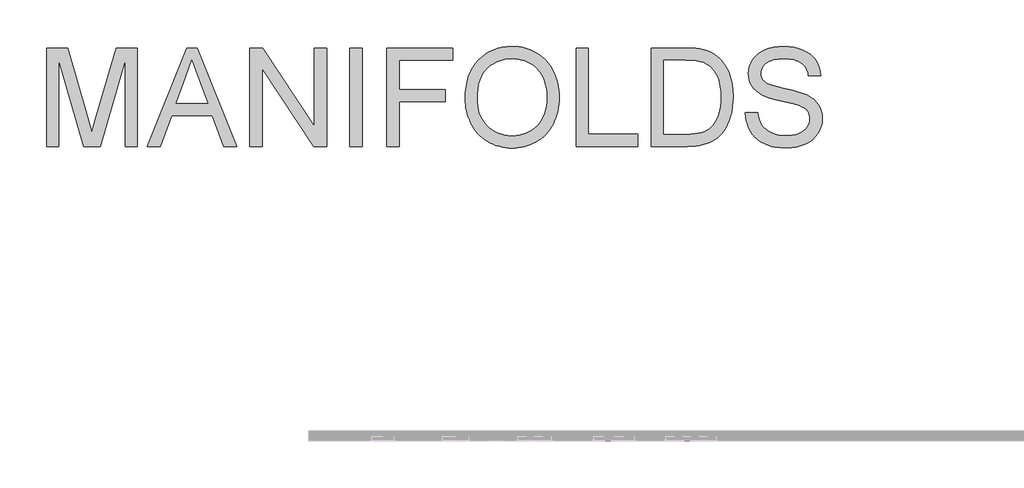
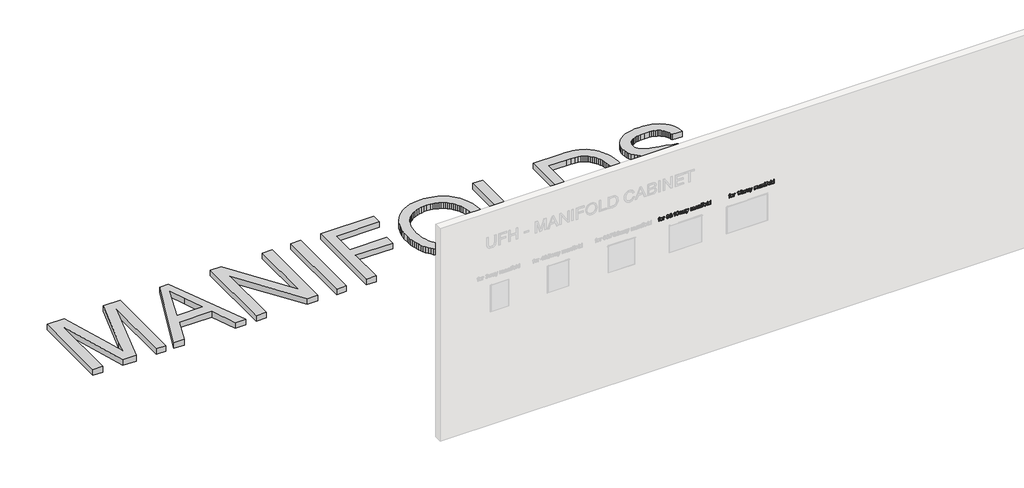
# One storey, part 9 of 26: 3 proxies.
"""IFC4 building model written with IfcOpenShell, lengths in millimetres."""

from ifc_helpers import new_model, si_unit, frame, origin, origin_with_axes, place, context, project, spatial, polyline, outline, extrude, element, save

model = new_model("IFC4")

# Units and contexts
model_context = context("Model", 3, world=origin())
ifc_project = project(units=[si_unit("LENGTHUNIT", "METRE", prefix="MILLI")], contexts=[model_context])

# Site, building, storey
site = spatial("IfcSite", under=ifc_project)
building = spatial("IfcBuilding", under=site)
storey = spatial("IfcBuildingStorey", under=building, Name="Superpipe UFH", Elevation=0.0)

# Proxies
placement = place(None, origin())
element("IfcBuildingElementProxy", 1, Name="2000mm Arial", ObjectType="2000mm Arial", at=placement, inside=storey, context=model_context, shape_type="SweptSolid", body=[
    extrude(outline(polyline([(-5622.4914813, -9208.7527888), (-5622.4914813, -7199.6265858), (-5190.3527643, -7199.6265858), (-4779.3059483, -8615.7270126), (-4696.4098721, -8911.5041367), (-4606.6466652, -8591.2015462), (-4202.4669799, -7199.6265858), (-3770.3282629, -7199.6265858), (-3770.3282629, -9208.7527888), (-4021.4690382, -9208.7527888), (-4021.4690382, -7450.7673612), (-4526.2031356, -9208.7527888), (-4866.6166085, -9208.7527888), (-5371.3507059, -7450.7673612), (-5371.3507059, -9208.7527888), (-5622.4914813, -9208.7527888)])), origin_with_axes(), (0.0, 0.0, 1.0), 150.0),
    extrude(outline(polyline([(-3564.8048549, -9208.7527888), (-2762.8221054, -7199.6265858), (-2548.9600389, -7199.6265858), (-1746.9772894, -9208.7527888), (-2012.3428353, -9208.7527888), (-2242.3917096, -8580.9008504), (-3069.8809441, -8580.9008504), (-3299.439309, -9208.7527888), (-3564.8048549, -9208.7527888)]), holes=[polyline([(-2977.6651906, -8329.760075), (-2334.1169537, -8329.760075), (-2515.1148953, -7835.8171828), (-2655.8910722, -7450.7673612), (-2780.9709505, -7792.652362), (-2977.6651906, -8329.760075)])]), origin_with_axes(), (0.0, 0.0, 1.0), 150.0),
    extrude(outline(polyline([(-1478.6686876, -9208.7527888), (-1478.6686876, -7199.6265858), (-1209.8695764, -7199.6265858), (-160.1796169, -8791.3293516), (-160.1796169, -7199.6265858), (90.9611585, -7199.6265858), (90.9611585, -9208.7527888), (-177.8379526, -9208.7527888), (-1227.5279122, -7616.5595137), (-1227.5279122, -9208.7527888), (-1478.6686876, -9208.7527888)])), origin_with_axes(), (0.0, 0.0, 1.0), 150.0),
    extrude(outline(polyline([(561.8501123, -9208.7527888), (561.8501123, -7199.6265858), (812.9908877, -7199.6265858), (812.9908877, -9208.7527888), (561.8501123, -9208.7527888)])), origin_with_axes(), (0.0, 0.0, 1.0), 150.0),
    extrude(outline(polyline([(1315.2724384, -9208.7527888), (1315.2724384, -7199.6265858), (2665.1541061, -7199.6265858), (2665.1541061, -7450.7673612), (1566.4132138, -7450.7673612), (1566.4132138, -8047.2267027), (2508.1911215, -8047.2267027), (2508.1911215, -8298.3674781), (1566.4132138, -8298.3674781), (1566.4132138, -9208.7527888), (1315.2724384, -9208.7527888)])), origin_with_axes(), (0.0, 0.0, 1.0), 150.0),
    extrude(outline(polyline([(2916.2948815, -8230.677191), (2920.4795392, -8109.4677378), (2933.0335122, -7995.0181162), (2953.9568007, -7887.3283263), (2983.2494046, -7786.3983681), (3020.9113238, -7692.2282416), (3066.9425585, -7604.8179467), (3121.3431085, -7524.1674834), (3184.1129739, -7450.2768519), (3253.4970511, -7384.1730558), (3327.7402362, -7326.8830993), (3406.8425294, -7278.4069822), (3490.8039306, -7238.7447046), (3579.6244398, -7207.8962665), (3673.304057, -7185.8616678), (3771.8427823, -7172.6409086), (3875.2406156, -7168.2339889), (3943.6743309, -7170.3033251), (4010.4065919, -7176.5113338), (4075.4373988, -7186.8580149), (4138.7667514, -7201.3433685), (4200.3946498, -7219.9673945), (4260.321094, -7242.7300929), (4318.5460839, -7269.6314638), (4375.0696197, -7300.6715072), (4429.0869593, -7335.4133631), (4479.793361, -7373.4201717), (4527.1888247, -7414.691933), (4571.2733504, -7459.2286471), (4612.0469382, -7507.0303138), (4649.5095881, -7558.0969333), (4683.6613, -7612.4285054), (4714.5020739, -7670.0250303), (4741.8632973, -7730.2503786), (4765.5763575, -7792.468421), (4785.6412547, -7856.6791576), (4802.0579887, -7922.8825883), (4814.8265597, -7991.0787132), (4823.9469674, -8061.2675322), (4829.4192121, -8133.4490453), (4831.2432937, -8207.6232526), (4829.3234095, -8282.7708143), (4823.563757, -8355.9103535), (4813.9643362, -8427.0418701), (4800.5251471, -8496.1653641), (4783.2461896, -8563.2808356), (4762.1274638, -8628.3882846), (4737.1689697, -8691.487711), (4708.3707073, -8752.5791148), (4676.0507412, -8810.8424258), (4640.527136, -8865.4575736), (4601.7998918, -8916.4245584), (4559.8690086, -8963.74338), (4514.7344863, -9007.4140385), (4466.396325, -9047.4365339), (4414.8545246, -9083.8108662), (4360.1090852, -9116.5370353), (4303.2061712, -9145.5077425), (4245.191947, -9170.6156886), (4186.0664125, -9191.8608739), (4125.8295679, -9209.2432981), (4064.4814131, -9222.7629615), (4002.0219481, -9232.4198638), (3938.451173, -9238.2140052), (3873.7690876, -9240.1453857), (3804.0707779, -9238.0109037), (3736.242535, -9231.6074578), (3670.284359, -9220.9350478), (3606.1962497, -9205.9936738), (3543.9782073, -9186.7833359), (3483.6302317, -9163.304034), (3425.1523229, -9135.5557681), (3368.5444809, -9103.5385382), (3314.5577981, -9067.830992), (3263.9433669, -9029.0117773), (3216.7011874, -8987.0808941), (3172.8312594, -8942.0383423), (3132.3335831, -8893.884122), (3095.2081584, -8842.6182331), (3061.4549854, -8788.2406757), (3031.074064, -8730.7514497), (3004.1726931, -8671.2733617), (2980.8581716, -8610.9292182), (2961.1304996, -8549.7190192), (2944.9896771, -8487.6427646), (2932.435704, -8424.7004545), (2923.4685804, -8360.8920888), (2918.0883062, -8296.2176677), (2916.2948815, -8230.677191)]), holes=[polyline([(3167.4356568, -8233.1297376), (3170.5741501, -8318.7159509), (3179.9896299, -8399.6269972), (3195.6820963, -8475.8628765), (3217.6515492, -8547.4235888), (3245.8979886, -8614.3091341), (3280.4214146, -8676.5195123), (3321.2218271, -8734.0547235), (3368.2992262, -8786.9147677), (3420.113106, -8834.2795745), (3475.1229605, -8875.3290738), (3533.32879, -8910.0632656), (3594.7305942, -8938.4821497), (3659.3283733, -8960.5857262), (3727.1221272, -8976.3739952), (3798.111856, -8985.8469566), (3872.2975596, -8989.0046104), (3947.839828, -8985.8162997), (4019.9561954, -8976.2513679), (4088.6466617, -8960.3098147), (4153.9112269, -8937.9916404), (4215.749891, -8909.2968447), (4274.1626541, -8874.2254279), (4329.149516, -8832.7773897), (4380.7104769, -8784.9527304), (4427.4429866, -8731.2649517), (4467.944495, -8672.2275557), (4502.2150021, -8607.8405423), (4530.254508, -8538.1039116), (4552.0630125, -8463.0176635), (4567.6405157, -8382.5817981), (4576.9870177, -8296.7963154), (4580.1025183, -8205.6612153), (4574.7682294, -8090.7287486), (4558.7653626, -7983.3378629), (4532.0939179, -7883.488558), (4514.7574789, -7836.3919984), (4494.7538954, -7791.1808341), (4472.1866343, -7748.1578011), (4447.1591623, -7707.6256359), (4419.6714795, -7669.5843383), (4389.7235858, -7634.0339084), (4357.3154813, -7600.9743462), (4322.4471659, -7570.4056517), (4285.1186397, -7542.3278248), (4245.3299027, -7516.7408657), (4203.6787631, -7493.9206856), (4160.7630291, -7474.1431963), (4116.5827007, -7457.4083976), (4071.137778, -7443.7162896), (4024.4282609, -7433.0668723), (3976.4541495, -7425.4601456), (3876.7121435, -7419.3747643), (3805.3813575, -7422.3063239), (3736.5797602, -7431.1010029), (3670.3073516, -7445.7588011), (3606.5641317, -7466.2797186), (3545.3501006, -7492.6637555), (3486.6652581, -7524.9109116), (3430.5096044, -7563.0211871), (3376.8831394, -7606.9945818), (3327.7938857, -7657.8197787), (3285.2498658, -7716.4854606), (3249.2510797, -7782.9916276), (3219.7975275, -7857.3382795), (3196.8892091, -7939.5254165), (3180.5261245, -8029.5530385), (3170.7082737, -8127.4211455), (3167.4356568, -8233.1297376)])]), origin_with_axes(), (0.0, 0.0, 1.0), 150.0),
    extrude(outline(polyline([(5176.5618598, -9208.7527888), (5176.5618598, -7199.6265858), (5427.7026352, -7199.6265858), (5427.7026352, -8957.6120134), (6432.2657367, -8957.6120134), (6432.2657367, -9208.7527888), (5176.5618598, -9208.7527888)])), origin_with_axes(), (0.0, 0.0, 1.0), 150.0),
    extrude(outline(polyline([(6714.799109, -9208.7527888), (6714.799109, -7199.6265858), (7407.8887879, -7199.6265858), (7518.4066706, -7201.435339), (7615.0063512, -7206.8615984), (7697.6878296, -7215.9053641), (7766.4511059, -7228.5666361), (7849.6537504, -7252.448309), (7926.6024011, -7284.362072), (7997.2970578, -7324.3079253), (8061.7377207, -7372.2858689), (8100.2197102, -7407.0507174), (8136.2031679, -7444.1454853), (8169.6880936, -7483.5701724), (8200.6744875, -7525.3247789), (8229.1623495, -7569.4093046), (8255.1516796, -7615.8237497), (8278.6424779, -7664.568114), (8299.6347442, -7715.6423977), (8334.1849949, -7823.861018), (8358.8637454, -7939.5599054), (8373.6709957, -8062.7390602), (8378.6067458, -8193.3984821), (8375.2651511, -8304.4528594), (8365.2403667, -8409.038645), (8348.5323927, -8507.1558388), (8325.1412292, -8598.8044408), (8296.5077473, -8683.4019713), (8264.072818, -8760.3659503), (8227.8364415, -8829.696378), (8187.7986177, -8891.3932543), (8144.8790516, -8946.1923432), (8099.9974482, -8994.8294086), (8053.1538074, -9037.3044506), (8004.3481294, -9073.6174692), (7952.0015872, -9104.8414536), (7894.5353539, -9132.0493928), (7831.9494294, -9155.2412869), (7764.2438139, -9174.4171359), (7691.3571936, -9189.4389841), (7613.2282549, -9200.1688756), (7529.8569977, -9206.6068105), (7441.2434221, -9208.7527888), (6714.799109, -9208.7527888)]), holes=[polyline([(6965.9398844, -8957.6120134), (7410.3413345, -8957.6120134), (7507.7994064, -8955.3434078), (7594.1597048, -8948.5375909), (7669.4222296, -8937.1945627), (7733.586981, -8921.3143232), (7789.1984759, -8901.2954113), (7838.8012316, -8877.5363658), (7882.395248, -8850.0371867), (7919.9805252, -8818.7978739), (7966.3183282, -8768.4440258), (8007.2298717, -8710.0887443), (8042.7151558, -8643.7320295), (8072.7741805, -8569.3738812), (8096.7018386, -8486.8610154), (8113.793023, -8396.0401478), (8124.0477336, -8296.9112785), (8127.4659705, -8189.4744075), (8125.791341, -8114.33451), (8120.7674525, -8043.6705101), (8112.394305, -7977.4824078), (8100.6718985, -7915.7702031), (8085.600233, -7858.533896), (8067.1793085, -7805.7734865), (8045.409125, -7757.4889747), (8020.2896825, -7713.6803604), (7992.7713429, -7673.8264776), (7963.8044679, -7637.4061601), (7933.3890575, -7604.4194078), (7901.5251118, -7574.8662209), (7868.2126307, -7548.7465992), (7833.4516142, -7526.0605429), (7797.2420624, -7506.8080518), (7759.5839753, -7490.989126), (7695.7564491, -7473.3921039), (7615.1289785, -7460.8228024), (7517.7015635, -7453.2812215), (7403.474204, -7450.7673612), (6965.9398844, -7450.7673612), (6965.9398844, -8957.6120134)])]), origin_with_axes(), (0.0, 0.0, 1.0), 150.0),
    extrude(outline(polyline([(8629.7475212, -8518.1156565), (8880.8882966, -8518.1156565), (8892.3846089, -8591.2168746), (8909.7057195, -8657.481619), (8932.8516284, -8716.9098897), (8961.8223355, -8769.5016866), (8998.0893689, -8816.3146704), (9043.1242565, -8858.4065021), (9096.9269983, -8895.7771814), (9159.4975943, -8928.4267085), (9228.536782, -8954.9295405), (9301.7452991, -8973.8601349), (9379.1231454, -8985.2184915), (9460.670321, -8989.0046104), (9532.8058489, -8986.1381965), (9600.5881065, -8977.5389548), (9664.0170938, -8963.2068854), (9723.0928109, -8943.1419883), (9776.3590581, -8918.0646989), (9822.3596359, -8888.695453), (9861.0945443, -8855.0342504), (9892.5637833, -8817.0810913), (9916.9206371, -8776.4761161), (9934.3183898, -8734.8594653), (9944.7570414, -8692.2311392), (9948.2365919, -8648.5911375), (9945.6307611, -8605.1350768), (9937.8132687, -8564.5301016), (9924.7841147, -8526.7762118), (9906.5432991, -8491.8734075), (9880.2397365, -8459.6377477), (9843.0223413, -8429.8852913), (9794.8911136, -8402.6160385), (9735.8460534, -8377.829989), (9603.2245941, -8338.4053019), (9370.1713502, -8281.9354156), (9239.3433156, -8249.8223831), (9130.1283483, -8218.4757715), (9042.5264482, -8187.8955806), (8976.5376153, -8158.0818106), (8909.4757933, -8118.0746436), (8851.5190506, -8073.591579), (8802.6673874, -8024.6326168), (8762.9208035, -7971.197757), (8732.1260148, -7913.8388226), (8710.1297372, -7853.1076366), (8696.9319706, -7789.0041989), (8692.5327151, -7721.5285096), (8697.9743029, -7646.7411657), (8714.2990664, -7574.4370252), (8741.5070057, -7504.6160882), (8779.5981206, -7437.2783547), (8802.61757, -7405.2266359), (8828.1432155, -7375.1676112), (8886.7130948, -7321.0276442), (8955.3077585, -7274.8584538), (9033.9272066, -7236.66004), (9119.919623, -7206.7236426), (9210.6331916, -7185.3405017), (9306.0679125, -7172.5106171), (9406.2237857, -7168.2339889), (9515.4847383, -7172.7098865), (9618.1238149, -7186.1375793), (9714.1410157, -7208.5170674), (9803.5363405, -7239.8483506), (9884.6543204, -7279.8555176), (9955.8394865, -7328.2626568), (9987.7072643, -7355.616216), (10017.0918387, -7385.0697682), (10043.9932096, -7416.6233135), (10068.411377, -7450.2768519), (10109.3995627, -7521.9831841), (10139.6578568, -7598.2880413), (10159.1862593, -7679.1914234), (10167.9847704, -7764.6933304), (9916.843995, -7764.6933304), (9910.0075213, -7723.3219344), (9900.0440506, -7684.5563691), (9886.9535829, -7648.3966347), (9870.7361183, -7614.842731), (9851.3916567, -7583.8946582), (9828.9201982, -7555.5524161), (9803.3217427, -7529.8160049), (9774.5962902, -7506.6854245), (9742.4909219, -7486.2219885), (9706.7527189, -7468.4870106), (9667.3816812, -7453.4804909), (9624.3778088, -7441.2024293), (9577.7411017, -7431.6528259), (9527.4715599, -7424.8316805), (9416.0339722, -7419.3747643), (9301.0401919, -7424.7703669), (9249.8202883, -7431.5148701), (9202.7850424, -7440.9571746), (9159.9344541, -7453.0972805), (9121.2685236, -7467.9351876), (9086.7872508, -7485.4708961), (9056.4906356, -7505.7044058), (9030.0491172, -7527.8463034), (9007.1331346, -7551.1071754), (8987.7426878, -7575.4870218), (8971.8777767, -7600.9858425), (8959.5384015, -7627.6036377), (8950.724562, -7655.3404073), (8945.4362583, -7684.1961513), (8943.6734904, -7714.1708697), (8948.6705542, -7764.7853009), (8963.6617455, -7810.6785798), (8988.6470643, -7851.8507064), (9023.6265107, -7888.3016808), (9047.2016152, -7905.5154925), (9078.6861827, -7922.8212747), (9165.3837062, -7957.7087505), (9283.7190813, -7992.9641084), (9433.692308, -8028.5873483), (9585.811513, -8063.32154), (9710.584823, -8095.9097534), (9808.0122381, -8126.3519885), (9878.0937582, -8154.6482453), (9955.0883941, -8197.5371546), (10021.261168, -8245.7603528), (10076.6120798, -8299.3178399), (10121.1411297, -8358.209616), (10155.3694836, -8422.1291126), (10179.8183079, -8490.7697615), (10194.4876025, -8564.1315628), (10199.3773673, -8642.2145162), (10193.7518385, -8720.7726506), (10176.8752519, -8797.0315225), (10148.7476077, -8870.991132), (10109.3689058, -8942.651479), (10059.428925, -9009.2381201), (9999.6174439, -9067.976612), (9929.9344627, -9118.8669546), (9850.3799812, -9161.9091481), (9763.2685904, -9196.1375021), (9670.9148812, -9220.5863263), (9573.3188536, -9235.2556209), (9470.4805075, -9240.1453857), (9342.0130491, -9234.8724105), (9224.4287664, -9219.0534847), (9169.717816, -9207.1892903), (9117.7276594, -9192.6886083), (9068.4582968, -9175.5514387), (9021.9097281, -9155.7777815), (8977.9363333, -9133.3523082), (8936.3924926, -9108.2596905), (8897.2782059, -9080.4999282), (8860.5934732, -9050.0730215), (8826.3382945, -9016.9789704), (8794.5126698, -8981.2177748), (8765.1165991, -8942.7894347), (8738.1500825, -8901.6939502), (8713.9235202, -8858.5751146), (8692.7473129, -8814.0767216), (8674.6214604, -8768.1987712), (8659.5459628, -8720.9412632), (8647.5208201, -8672.3041978), (8638.5460323, -8622.2875748), (8629.7475212, -8518.1156565)])), origin_with_axes(), (0.0, 0.0, 1.0), 150.0),
])
element("IfcBuildingElementProxy", 2, Name="600mm Arial 2", ObjectType="600mm Arial 2", at=placement, inside=storey, context=model_context, shape_type="SweptSolid", body=[
    extrude(outline(polyline([(3970.2370156, 5266.2378523), (3970.2370156, 5278.794891), (4031.4525796, 5278.794891), (4031.4525796, 5292.9215597), (4044.0096184, 5292.9215597), (4044.0096184, 5278.794891), (4049.8466793, 5278.794891), (4057.6212522, 5281.1125476), (4059.7059168, 5289.0220105), (4059.1173056, 5296.2570231), (4070.8895295, 5298.0964331), (4072.2629556, 5286.6430403), (4069.393476, 5273.9878996), (4061.9132088, 5267.5622275), (4051.4408347, 5266.2378523), (4044.0096184, 5266.2378523), (4044.0096184, 5255.2504434), (4031.4525796, 5255.2504434), (4031.4525796, 5266.2378523), (3970.2370156, 5266.2378523)])), frame((0.0, -15228.3023992, 0.0), z_axis=(0.0, 1.0, 0.0), x_axis=(0.0, 0.0, 1.0)), (0.0, 0.0, 1.0), 10.0),
    extrude(outline(polyline([(4007.123317, 5300.7697089), (3990.666729, 5303.0475116), (3978.5756741, 5309.8809196), (3971.1444578, 5320.4054104), (3968.6673857, 5333.7564611), (3973.1678088, 5350.764872), (3985.8106867, 5362.622935), (4008.1533866, 5366.6941624), (4023.791437, 5364.3918343), (4035.6341716, 5357.4848498), (4043.092979, 5346.9480963), (4045.5792482, 5333.7564611), (4043.5375031, 5321.7021944), (4037.4122679, 5311.6344905), (4024.9104114, 5303.4859043), (4007.123317, 5300.7697089)]), holes=[polyline([(4007.1478424, 5313.3267477), (4018.506199, 5314.7798815), (4026.5842745, 5319.1392832), (4031.4127257, 5325.6998454), (4033.0222094, 5333.7564611), (4031.4065943, 5341.7303034), (4026.559749, 5348.2877999), (4018.5736441, 5352.6747927), (4007.5402499, 5354.1371237), (3995.9274416, 5352.6839898), (3987.7236731, 5348.3245881), (3982.8492367, 5341.7762886), (3981.2244245, 5333.7564611), (3982.8400396, 5325.6998454), (3987.6868849, 5319.1392832), (3995.7833545, 5314.7798815), (4007.1478424, 5313.3267477)])]), frame((0.0, -15228.3023992, 0.0), z_axis=(0.0, 1.0, 0.0), x_axis=(0.0, 0.0, 1.0)), (0.0, 0.0, 1.0), 10.0),
    extrude(outline(polyline([(3970.2370156, 5380.820831), (3970.2370156, 5393.3778698), (4009.0117779, 5393.3778698), (4023.6780067, 5395.4134835), (4030.5451373, 5399.9384321), (4033.0222094, 5407.0385546), (4030.4470355, 5415.8677224), (4041.7042245, 5420.0615772), (4045.5792482, 5407.4554875), (4043.151227, 5399.6073383), (4033.0957858, 5391.80824), (4044.0096184, 5391.80824), (4044.0096184, 5380.820831), (3970.2370156, 5380.820831)])), frame((0.0, -15228.3023992, 0.0), z_axis=(0.0, 1.0, 0.0), x_axis=(0.0, 0.0, 1.0)), (0.0, 0.0, 1.0), 10.0),
    extrude(outline(polyline([(3995.3510931, 5465.5808427), (3984.0908384, 5468.5913437), (3975.6694064, 5474.5816889), (3970.4178909, 5483.147208), (3968.6673857, 5493.8832309), (3970.1511765, 5504.2850943), (3974.6025486, 5513.270612), (3981.8896778, 5520.5270844), (3991.8807396, 5525.7418117), (4022.378157, 5529.9356664), (4050.4843415, 5525.7295489), (4065.4448759, 5513.4177648), (4070.6933257, 5495.5264371), (4068.3940633, 5483.1257482), (4061.4962759, 5472.9997963), (4050.827698, 5466.2583587), (4037.2160642, 5464.0112129), (4024.0397574, 5466.1541255), (4013.6961419, 5472.5828634), (4007.0006896, 5482.1140727), (4004.7688722, 5493.5643998), (4008.4231667, 5507.3354492), (4017.9390476, 5517.3786277), (4015.486501, 5517.452204), (4000.918374, 5515.6373195), (3990.0045415, 5511.5293039), (3983.6156575, 5504.6376479), (3981.2244245, 5494.4718421), (3984.9400327, 5483.7787388), (3996.920723, 5478.1378815), (3995.3510931, 5465.5808427)]), holes=[polyline([(4037.5103698, 5517.3786277), (4029.0705437, 5515.9592163), (4022.6847254, 5511.7009822), (4017.325911, 5497.2186943), (4018.6656146, 5488.6899634), (4022.6847254, 5482.1355325), (4028.8436831, 5477.9600719), (4036.6029275, 5476.5682517), (4045.2573515, 5478.0397796), (4052.1398104, 5482.4543636), (4056.6371678, 5489.1743414), (4058.136287, 5497.5620508), (4056.7444667, 5505.6493234), (4052.5690061, 5511.9584996), (4046.0207066, 5516.0235956), (4037.5103698, 5517.3786277)])]), frame((0.0, -15228.3023992, 0.0), z_axis=(0.0, 1.0, 0.0), x_axis=(0.0, 0.0, 1.0)), (0.0, 0.0, 1.0), 10.0),
    extrude(outline(polyline([(3982.6469016, 5601.6726555), (3968.6673857, 5614.6956781), (3978.3304195, 5624.1134572), (3993.5362086, 5608.956719), (4014.2111767, 5617.8349378), (4016.9335035, 5605.277899), (4003.0275641, 5599.857771), (4025.6645695, 5581.6844004), (4037.0198604, 5595.8478572), (4050.4843415, 5600.5690095), (4058.8168687, 5598.9748542), (4065.8618089, 5594.1923882), (4070.6626689, 5586.9021934), (4072.2629556, 5577.7848513), (4070.5890925, 5568.2015253), (4065.5675033, 5560.3962956), (4058.2773084, 5555.2091595), (4049.7976284, 5553.4801141), (4040.3798493, 5555.6751433), (4027.6756578, 5564.4429976), (4014.5790587, 5546.82145), (3997.8772162, 5540.9230753), (3987.9505337, 5542.756354), (3979.0171325, 5548.2561898), (3971.2548224, 5558.9247676), (3968.6673857, 5572.7816561), (3972.1622647, 5588.3553273), (3982.6469016, 5601.6726555)]), holes=[polyline([(4033.5862952, 5575.3323046), (4039.5705089, 5570.3781604), (4044.6840687, 5567.1162734), (4049.2825936, 5566.0371529), (4056.6770217, 5569.2132008), (4059.7059168, 5577.1471891), (4056.6524963, 5584.9094992), (4048.7675588, 5588.0119707), (4041.3731307, 5585.657526), (4033.5862952, 5575.3323046)]), polyline([(3991.6967986, 5593.2604205), (3984.142955, 5583.7322768), (3981.2244245, 5572.1930449), (3982.787923, 5564.2590566), (3987.4784184, 5558.3606819), (3999.5449479, 5553.4801141), (4009.1589307, 5557.0485695), (4019.6803557, 5570.8441443), (3991.6967986, 5593.2604205)])]), frame((0.0, -15228.3023992, 0.0), z_axis=(0.0, 1.0, 0.0), x_axis=(0.0, 0.0, 1.0)), (0.0, 0.0, 1.0), 10.0),
    extrude(outline(polyline([(3970.2370156, 5680.6201316), (4070.6933257, 5680.6201316), (4070.6933257, 5672.5267277), (4057.3269466, 5661.3553778), (4045.5792482, 5642.9490153), (4033.7089225, 5642.9490153), (4040.0487555, 5656.1682417), (4048.5223042, 5668.0630929), (3970.2370156, 5668.0630929), (3970.2370156, 5680.6201316)])), frame((0.0, -15228.3023992, 0.0), z_axis=(0.0, 1.0, 0.0), x_axis=(0.0, 0.0, 1.0)), (0.0, 0.0, 1.0), 10.0),
    extrude(outline(polyline([(4019.6558303, 5710.4430987), (3995.2223344, 5712.9446963), (3978.2323176, 5720.449489), (3971.0586187, 5730.3577774), (3968.6673857, 5743.4053255), (3970.0438775, 5753.5558029), (3974.1733529, 5761.7871625), (3990.8751955, 5772.7132578), (4019.6558303, 5776.3675523), (4043.2615916, 5774.0866839), (4058.1240242, 5768.200572), (4067.4559642, 5758.0715544), (4070.6933257, 5743.4053255), (4065.2241467, 5725.0970649), (4048.5590924, 5714.1341814), (4019.6558303, 5710.4430987)]), holes=[polyline([(4019.6803557, 5723.0001375), (4039.1781015, 5724.5207164), (4051.4163092, 5729.0824531), (4056.4562925, 5735.3977607), (4058.136287, 5743.2581727), (4056.229432, 5751.560043), (4050.5088669, 5758.1206053), (4038.9880291, 5762.3880364), (4019.6803557, 5763.8105135), (3999.9588151, 5762.3389855), (3988.5207507, 5757.9244016), (3983.0485061, 5751.3515766), (3981.2244245, 5743.4053255), (3983.0423747, 5735.4590744), (3988.4962253, 5728.8862494), (3999.9281583, 5724.4716655), (4019.6803557, 5723.0001375)])]), frame((0.0, -15228.3023992, 0.0), z_axis=(0.0, 1.0, 0.0), x_axis=(0.0, 0.0, 1.0)), (0.0, 0.0, 1.0), 10.0),
    extrude(outline(polyline([(3970.2370156, 5802.7324286), (3970.2370156, 5818.0853705), (4026.9889447, 5830.5197819), (4013.4999382, 5833.3156851), (3970.2370156, 5842.9541934), (3970.2370156, 5858.135457), (4044.0096184, 5880.747937), (4044.0096184, 5867.651338), (4001.2617305, 5854.8980955), (3987.1105364, 5850.9249699), (4000.5259665, 5848.1535922), (4044.0096184, 5838.0736256), (4044.0096184, 5823.1130911), (4000.4033392, 5812.9840735), (3985.5899575, 5809.8693393), (4000.9674249, 5806.067892), (4044.0096184, 5793.339175), (4044.0096184, 5780.2916269), (3970.2370156, 5802.7324286)])), frame((0.0, -15228.3023992, 0.0), z_axis=(0.0, 1.0, 0.0), x_axis=(0.0, 0.0, 1.0)), (0.0, 0.0, 1.0), 10.0),
    extrude(outline(polyline([(3979.6547947, 5936.4697966), (3970.2370156, 5939.6090562), (3970.2370156, 5952.166095), (3980.7952288, 5949.6644974), (4002.6106312, 5949.0268353), (4018.2333532, 5949.0268353), (4029.2207621, 5948.4136987), (4037.7433617, 5944.5632005), (4043.3474308, 5935.9670245), (4045.5792482, 5920.7489726), (4043.0531252, 5904.1820201), (4035.8671635, 5893.2436621), (4023.6044304, 5887.8112713), (4022.0348005, 5900.3683101), (4030.606451, 5906.4261003), (4033.0222094, 5919.1302919), (4029.3924404, 5933.0117058), (4020.1218141, 5936.4697966), (4017.325911, 5936.3962202), (4013.0094289, 5914.617606), (4011.120968, 5903.7528245), (4007.0006896, 5894.9604448), (3999.7902025, 5888.6451372), (3989.8573887, 5886.2416415), (3981.4144969, 5887.8327311), (3974.6270741, 5892.606), (3970.1573078, 5900.3468503), (3968.6673857, 5910.8406842), (3971.1444578, 5924.2929025), (3979.6547947, 5936.4697966)]), holes=[polyline([(4004.7688722, 5936.4697966), (4001.2126796, 5936.3962202), (3991.5005949, 5934.4096574), (3984.2287941, 5926.2181516), (3981.2244245, 5913.5139601), (3983.9467513, 5902.5388139), (3990.7403054, 5898.7986803), (3995.5718223, 5900.5154629), (3998.8827603, 5905.4082934), (4000.918374, 5916.2117614), (4004.7688722, 5936.4697966)])]), frame((0.0, -15228.3023992, 0.0), z_axis=(0.0, 1.0, 0.0), x_axis=(0.0, 0.0, 1.0)), (0.0, 0.0, 1.0), 10.0),
    extrude(outline(polyline([(3941.9836784, 5966.2927636), (3940.4140485, 5973.9692346), (3943.2344771, 5983.7548957), (3952.0881705, 5991.0389592), (3968.471182, 5997.709886), (4044.0096184, 6023.3880493), (4044.0096184, 6010.2423993), (4001.1391032, 5995.6987978), (3986.669078, 5990.769179), (4003.0520896, 5985.8395603), (4044.0096184, 5971.6883662), (4044.0096184, 5958.4446144), (3970.5067957, 5985.1283218), (3967.4656379, 5984.1473031), (3958.2195371, 5980.7137378), (3954.3567761, 5977.0594434), (3952.9710873, 5971.099755), (3954.0747333, 5964.7231338), (3941.9836784, 5966.2927636)])), frame((0.0, -15228.3023992, 0.0), z_axis=(0.0, 1.0, 0.0), x_axis=(0.0, 0.0, 1.0)), (0.0, 0.0, 1.0), 10.0),
    extrude(outline(polyline([(3970.2370156, 6073.0275932), (3970.2370156, 6085.5846319), (4007.442148, 6085.5846319), (4022.427208, 6087.4976183), (4030.3244081, 6093.6780358), (4033.0222094, 6102.9731876), (4028.9755075, 6112.5013312), (4016.8108762, 6115.407599), (3970.2370156, 6115.407599), (3970.2370156, 6127.9646378), (4011.8812574, 6127.9646378), (4021.4523207, 6129.1939768), (4027.9944888, 6132.8819938), (4033.0222094, 6145.2305661), (4031.0601721, 6152.404265), (4025.8975615, 6156.6226452), (4015.4129246, 6157.7876049), (3970.2370156, 6157.7876049), (3970.2370156, 6170.3446436), (4020.8085272, 6170.3446436), (4031.7990018, 6168.9068382), (4039.5091953, 6164.5934218), (4044.061735, 6157.6128609), (4045.5792482, 6148.173622), (4041.9310851, 6135.8005243), (4030.9865957, 6126.0026005), (4041.7410127, 6119.086419), (4045.5792482, 6106.5048547), (4041.8145891, 6094.2175961), (4031.8695125, 6085.5846319), (4044.0096184, 6085.5846319), (4044.0096184, 6073.0275932), (3970.2370156, 6073.0275932)])), frame((0.0, -15228.3023992, 0.0), z_axis=(0.0, 1.0, 0.0), x_axis=(0.0, 0.0, 1.0)), (0.0, 0.0, 1.0), 10.0),
    extrude(outline(polyline([(3979.6547947, 6236.2690972), (3970.2370156, 6239.4083569), (3970.2370156, 6251.9653956), (3980.7952288, 6249.4637981), (4002.6106312, 6248.8261359), (4018.2333532, 6248.8261359), (4029.2207621, 6248.2129993), (4037.7433617, 6244.3625011), (4043.3474308, 6235.7663251), (4045.5792482, 6220.5482732), (4043.0531252, 6203.9813207), (4035.8671635, 6193.0429627), (4023.6044304, 6187.6105719), (4022.0348005, 6200.1676107), (4030.606451, 6206.2254009), (4033.0222094, 6218.9295925), (4029.3924404, 6232.8110064), (4020.1218141, 6236.2690972), (4017.325911, 6236.1955208), (4013.0094289, 6214.4169066), (4011.120968, 6203.5521251), (4007.0006896, 6194.7597454), (3999.7902025, 6188.4444378), (3989.8573887, 6186.0409421), (3981.4144969, 6187.6320317), (3974.6270741, 6192.4053006), (3970.1573078, 6200.1461509), (3968.6673857, 6210.6399848), (3971.1444578, 6224.0922031), (3979.6547947, 6236.2690972)]), holes=[polyline([(4004.7688722, 6236.2690972), (4001.2126796, 6236.1955208), (3991.5005949, 6234.208958), (3984.2287941, 6226.0174522), (3981.2244245, 6213.3132607), (3983.9467513, 6202.3381145), (3990.7403054, 6198.5979809), (3995.5718223, 6200.3147635), (3998.8827603, 6205.207594), (4000.918374, 6216.011062), (4004.7688722, 6236.2690972)])]), frame((0.0, -15228.3023992, 0.0), z_axis=(0.0, 1.0, 0.0), x_axis=(0.0, 0.0, 1.0)), (0.0, 0.0, 1.0), 10.0),
    extrude(outline(polyline([(3970.2370156, 6266.0920642), (3970.2370156, 6278.649103), (4009.3796599, 6278.649103), (4020.9495486, 6280.0807771), (4028.0925907, 6284.3757994), (4033.0222094, 6297.9996959), (4030.8271802, 6306.6203974), (4024.953331, 6311.7339571), (4013.8432947, 6313.1809596), (3970.2370156, 6313.1809596), (3970.2370156, 6325.7379984), (4015.5355519, 6325.7379984), (4027.6756578, 6325.0758108), (4036.9094958, 6321.3111517), (4043.1880152, 6313.2177478), (4045.5792482, 6301.3596848), (4042.6116668, 6288.2508231), (4033.7089225, 6278.649103), (4044.0096184, 6278.649103), (4044.0096184, 6266.0920642), (3970.2370156, 6266.0920642)])), frame((0.0, -15228.3023992, 0.0), z_axis=(0.0, 1.0, 0.0), x_axis=(0.0, 0.0, 1.0)), (0.0, 0.0, 1.0), 10.0),
    extrude(outline(polyline([(6355.5609655, -15228.3023992), (6343.0039267, -15228.3023992), (6343.0039267, -15218.3023992), (6355.5609655, -15218.3023992), (6355.5609655, -15228.3023992)])), frame((0.0, 0.0, 4058.136287), z_axis=(0.0, 0.0, 1.0), x_axis=(1.0, 0.0, 0.0)), (0.0, 0.0, 1.0), 12.5570388),
    extrude(outline(polyline([(6355.5609655, -15228.3023992), (6343.0039267, -15228.3023992), (6343.0039267, -15218.3023992), (6355.5609655, -15218.3023992), (6355.5609655, -15228.3023992)])), frame((0.0, 0.0, 3970.2370156), z_axis=(0.0, 0.0, 1.0), x_axis=(1.0, 0.0, 0.0)), (0.0, 0.0, 1.0), 73.7726028),
    extrude(outline(polyline([(3970.2370156, 6377.5357833), (3970.2370156, 6390.0928221), (4031.4525796, 6390.0928221), (4031.4525796, 6404.2194907), (4044.0096184, 6404.2194907), (4044.0096184, 6390.0928221), (4049.8466793, 6390.0928221), (4057.6212522, 6392.4104786), (4059.7059168, 6400.3199415), (4059.1173056, 6407.5549541), (4070.8895295, 6409.3943641), (4072.2629556, 6397.9409713), (4069.393476, 6385.2858307), (4061.9132088, 6378.8601585), (4051.4408347, 6377.5357833), (4044.0096184, 6377.5357833), (4044.0096184, 6366.5483744), (4031.4525796, 6366.5483744), (4031.4525796, 6377.5357833), (3970.2370156, 6377.5357833)])), frame((0.0, -15228.3023992, 0.0), z_axis=(0.0, 1.0, 0.0), x_axis=(0.0, 0.0, 1.0)), (0.0, 0.0, 1.0), 10.0),
    extrude(outline(polyline([(4007.123317, 6412.0676399), (3990.666729, 6414.3454426), (3978.5756741, 6421.1788507), (3971.1444578, 6431.7033414), (3968.6673857, 6445.0543922), (3973.1678088, 6462.0628031), (3985.8106867, 6473.920866), (4008.1533866, 6477.9920935), (4023.791437, 6475.6897653), (4035.6341716, 6468.7827808), (4043.092979, 6458.2460274), (4045.5792482, 6445.0543922), (4043.5375031, 6433.0001254), (4037.4122679, 6422.9324215), (4024.9104114, 6414.7838353), (4007.123317, 6412.0676399)]), holes=[polyline([(4007.1478424, 6424.6246787), (4018.506199, 6426.0778126), (4026.5842745, 6430.4372142), (4031.4127257, 6436.9977765), (4033.0222094, 6445.0543922), (4031.4065943, 6453.0282344), (4026.559749, 6459.585731), (4018.5736441, 6463.9727238), (4007.5402499, 6465.4350547), (3995.9274416, 6463.9819208), (3987.7236731, 6459.6225192), (3982.8492367, 6453.0742196), (3981.2244245, 6445.0543922), (3982.8400396, 6436.9977765), (3987.6868849, 6430.4372142), (3995.7833545, 6426.0778126), (4007.1478424, 6424.6246787)])]), frame((0.0, -15228.3023992, 0.0), z_axis=(0.0, 1.0, 0.0), x_axis=(0.0, 0.0, 1.0)), (0.0, 0.0, 1.0), 10.0),
    extrude(outline(polyline([(6504.6758008, -15228.3023992), (6492.1187621, -15228.3023992), (6492.1187621, -15218.3023992), (6504.6758008, -15218.3023992), (6504.6758008, -15228.3023992)])), frame((0.0, 0.0, 3970.2370156), z_axis=(0.0, 0.0, 1.0), x_axis=(1.0, 0.0, 0.0)), (0.0, 0.0, 1.0), 100.4563101),
    extrude(outline(polyline([(3970.2370156, 6569.0306245), (3970.2370156, 6581.5876633), (4070.6933257, 6581.5876633), (4070.6933257, 6569.0306245), (4033.2674641, 6569.0306245), (4042.1579456, 6560.7655424), (4045.5792482, 6549.1895223), (4040.7967823, 6533.16213), (4027.0379956, 6522.3954503), (4007.0497406, 6518.8024695), (3987.0737482, 6522.7020186), (3973.5234281, 6533.6894275), (3968.6673857, 6549.2385732), (3972.0212433, 6560.7226228), (3982.0828158, 6569.0306245), (3970.2370156, 6569.0306245)]), holes=[polyline([(4007.0987915, 6531.3595082), (4018.739191, 6532.6838834), (4026.7804782, 6536.657009), (4031.4617766, 6542.6105659), (4033.0222094, 6549.8762353), (4031.3973973, 6557.3289114), (4026.5229608, 6563.5001319), (4018.1781709, 6567.6480014), (4006.1422983, 6569.0306245), (3995.1334296, 6567.6725268), (3987.3680538, 6563.5982337), (3982.7603318, 6557.5802974), (3981.2244245, 6550.3912701), (3982.8339082, 6543.1991771), (3987.6623594, 6537.0248909), (3995.7404349, 6532.7758539), (4007.0987915, 6531.3595082)])]), frame((0.0, -15228.3023992, 0.0), z_axis=(0.0, 1.0, 0.0), x_axis=(0.0, 0.0, 1.0)), (0.0, 0.0, 1.0), 10.0),
])
element("IfcBuildingElementProxy", 3, Name="600mm Arial 2", ObjectType="600mm Arial 2", at=placement, inside=storey, context=model_context, shape_type="SweptSolid", body=[
    extrude(outline(polyline([(3970.2370156, 7055.7578757), (3970.2370156, 7068.3149144), (4031.4525796, 7068.3149144), (4031.4525796, 7082.441583), (4044.0096184, 7082.441583), (4044.0096184, 7068.3149144), (4049.8466793, 7068.3149144), (4057.6212522, 7070.632571), (4059.7059168, 7078.5420339), (4059.1173056, 7085.7770465), (4070.8895295, 7087.6164564), (4072.2629556, 7076.1630637), (4069.393476, 7063.507923), (4061.9132088, 7057.0822508), (4051.4408347, 7055.7578757), (4044.0096184, 7055.7578757), (4044.0096184, 7044.7704667), (4031.4525796, 7044.7704667), (4031.4525796, 7055.7578757), (3970.2370156, 7055.7578757)])), frame((0.0, -15228.3023992, 0.0), z_axis=(0.0, 1.0, 0.0), x_axis=(0.0, 0.0, 1.0)), (0.0, 0.0, 1.0), 10.0),
    extrude(outline(polyline([(4007.123317, 7090.2897323), (3990.666729, 7092.567535), (3978.5756741, 7099.400943), (3971.1444578, 7109.9254338), (3968.6673857, 7123.2764845), (3973.1678088, 7140.2848954), (3985.8106867, 7152.1429584), (4008.1533866, 7156.2141858), (4023.791437, 7153.9118577), (4035.6341716, 7147.0048732), (4043.092979, 7136.4681197), (4045.5792482, 7123.2764845), (4043.5375031, 7111.2222178), (4037.4122679, 7101.1545139), (4024.9104114, 7093.0059277), (4007.123317, 7090.2897323)]), holes=[polyline([(4007.1478424, 7102.846771), (4018.506199, 7104.2999049), (4026.5842745, 7108.6593066), (4031.4127257, 7115.2198688), (4033.0222094, 7123.2764845), (4031.4065943, 7131.2503267), (4026.559749, 7137.8078233), (4018.5736441, 7142.1948161), (4007.5402499, 7143.657147), (3995.9274416, 7142.2040132), (3987.7236731, 7137.8446115), (3982.8492367, 7131.296312), (3981.2244245, 7123.2764845), (3982.8400396, 7115.2198688), (3987.6868849, 7108.6593066), (3995.7833545, 7104.2999049), (4007.1478424, 7102.846771)])]), frame((0.0, -15228.3023992, 0.0), z_axis=(0.0, 1.0, 0.0), x_axis=(0.0, 0.0, 1.0)), (0.0, 0.0, 1.0), 10.0),
    extrude(outline(polyline([(3970.2370156, 7170.3408544), (3970.2370156, 7182.8978932), (4009.0117779, 7182.8978932), (4023.6780067, 7184.9335069), (4030.5451373, 7189.4584554), (4033.0222094, 7196.5585779), (4030.4470355, 7205.3877458), (4041.7042245, 7209.5816006), (4045.5792482, 7196.9755109), (4043.151227, 7189.1273616), (4033.0957858, 7181.3282633), (4044.0096184, 7181.3282633), (4044.0096184, 7170.3408544), (3970.2370156, 7170.3408544)])), frame((0.0, -15228.3023992, 0.0), z_axis=(0.0, 1.0, 0.0), x_axis=(0.0, 0.0, 1.0)), (0.0, 0.0, 1.0), 10.0),
    extrude(outline(polyline([(3970.2370156, 7300.6201316), (4070.6933257, 7300.6201316), (4070.6933257, 7292.5267277), (4057.3269466, 7281.3553778), (4045.5792482, 7262.9490153), (4033.7089225, 7262.9490153), (4040.0487555, 7276.1682417), (4048.5223042, 7288.0630929), (3970.2370156, 7288.0630929), (3970.2370156, 7300.6201316)])), frame((0.0, -15228.3023992, 0.0), z_axis=(0.0, 1.0, 0.0), x_axis=(0.0, 0.0, 1.0)), (0.0, 0.0, 1.0), 10.0),
    extrude(outline(polyline([(3982.7940544, 7394.7979224), (3982.7940544, 7345.4772096), (3989.1829383, 7351.1425923), (4001.2617305, 7365.588092), (4018.4663452, 7383.5775216), (4030.7781293, 7390.9964751), (4042.6852432, 7393.2282926), (4053.6358639, 7391.1589563), (4062.6489728, 7384.9509477), (4068.6822375, 7375.1928777), (4070.6933257, 7362.4733578), (4068.8845726, 7349.8458083), (4063.4583132, 7340.0693443), (4054.5862257, 7333.4873222), (4042.4399885, 7330.4430987), (4040.8703587, 7343.0001375), (4053.5500248, 7348.2853755), (4058.136287, 7362.2035776), (4053.4396602, 7375.5576941), (4041.9249537, 7380.6712538), (4027.7001832, 7375.2511257), (4006.7799604, 7353.5706135), (3992.2240962, 7337.8497896), (3978.8945052, 7330.2223695), (3970.2370156, 7328.8734689), (3970.2370156, 7394.7979224), (3982.7940544, 7394.7979224)])), frame((0.0, -15228.3023992, 0.0), z_axis=(0.0, 1.0, 0.0), x_axis=(0.0, 0.0, 1.0)), (0.0, 0.0, 1.0), 10.0),
    extrude(outline(polyline([(3970.2370156, 7422.7324286), (3970.2370156, 7438.0853705), (4026.9889447, 7450.5197819), (4013.4999382, 7453.3156851), (3970.2370156, 7462.9541934), (3970.2370156, 7478.135457), (4044.0096184, 7500.747937), (4044.0096184, 7487.651338), (4001.2617305, 7474.8980955), (3987.1105364, 7470.9249699), (4000.5259665, 7468.1535922), (4044.0096184, 7458.0736256), (4044.0096184, 7443.1130911), (4000.4033392, 7432.9840735), (3985.5899575, 7429.8693393), (4000.9674249, 7426.067892), (4044.0096184, 7413.339175), (4044.0096184, 7400.2916269), (3970.2370156, 7422.7324286)])), frame((0.0, -15228.3023992, 0.0), z_axis=(0.0, 1.0, 0.0), x_axis=(0.0, 0.0, 1.0)), (0.0, 0.0, 1.0), 10.0),
    extrude(outline(polyline([(3979.6547947, 7556.4697966), (3970.2370156, 7559.6090562), (3970.2370156, 7572.166095), (3980.7952288, 7569.6644974), (4002.6106312, 7569.0268353), (4018.2333532, 7569.0268353), (4029.2207621, 7568.4136987), (4037.7433617, 7564.5632005), (4043.3474308, 7555.9670245), (4045.5792482, 7540.7489726), (4043.0531252, 7524.1820201), (4035.8671635, 7513.2436621), (4023.6044304, 7507.8112713), (4022.0348005, 7520.3683101), (4030.606451, 7526.4261003), (4033.0222094, 7539.1302919), (4029.3924404, 7553.0117058), (4020.1218141, 7556.4697966), (4017.325911, 7556.3962202), (4013.0094289, 7534.617606), (4011.120968, 7523.7528245), (4007.0006896, 7514.9604448), (3999.7902025, 7508.6451372), (3989.8573887, 7506.2416415), (3981.4144969, 7507.8327311), (3974.6270741, 7512.606), (3970.1573078, 7520.3468503), (3968.6673857, 7530.8406842), (3971.1444578, 7544.2929025), (3979.6547947, 7556.4697966)]), holes=[polyline([(4004.7688722, 7556.4697966), (4001.2126796, 7556.3962202), (3991.5005949, 7554.4096574), (3984.2287941, 7546.2181516), (3981.2244245, 7533.5139601), (3983.9467513, 7522.5388139), (3990.7403054, 7518.7986803), (3995.5718223, 7520.5154629), (3998.8827603, 7525.4082934), (4000.918374, 7536.2117614), (4004.7688722, 7556.4697966)])]), frame((0.0, -15228.3023992, 0.0), z_axis=(0.0, 1.0, 0.0), x_axis=(0.0, 0.0, 1.0)), (0.0, 0.0, 1.0), 10.0),
    extrude(outline(polyline([(3941.9836784, 7586.2927636), (3940.4140485, 7593.9692346), (3943.2344771, 7603.7548957), (3952.0881705, 7611.0389592), (3968.471182, 7617.709886), (4044.0096184, 7643.3880493), (4044.0096184, 7630.2423993), (4001.1391032, 7615.6987978), (3986.669078, 7610.769179), (4003.0520896, 7605.8395603), (4044.0096184, 7591.6883662), (4044.0096184, 7578.4446144), (3970.5067957, 7605.1283218), (3967.4656379, 7604.1473031), (3958.2195371, 7600.7137378), (3954.3567761, 7597.0594434), (3952.9710873, 7591.099755), (3954.0747333, 7584.7231338), (3941.9836784, 7586.2927636)])), frame((0.0, -15228.3023992, 0.0), z_axis=(0.0, 1.0, 0.0), x_axis=(0.0, 0.0, 1.0)), (0.0, 0.0, 1.0), 10.0),
    extrude(outline(polyline([(3970.2370156, 7693.0275932), (3970.2370156, 7705.5846319), (4007.442148, 7705.5846319), (4022.427208, 7707.4976183), (4030.3244081, 7713.6780358), (4033.0222094, 7722.9731876), (4028.9755075, 7732.5013312), (4016.8108762, 7735.407599), (3970.2370156, 7735.407599), (3970.2370156, 7747.9646378), (4011.8812574, 7747.9646378), (4021.4523207, 7749.1939768), (4027.9944888, 7752.8819938), (4033.0222094, 7765.2305661), (4031.0601721, 7772.404265), (4025.8975615, 7776.6226452), (4015.4129246, 7777.7876049), (3970.2370156, 7777.7876049), (3970.2370156, 7790.3446436), (4020.8085272, 7790.3446436), (4031.7990018, 7788.9068382), (4039.5091953, 7784.5934218), (4044.061735, 7777.6128609), (4045.5792482, 7768.173622), (4041.9310851, 7755.8005243), (4030.9865957, 7746.0026005), (4041.7410127, 7739.086419), (4045.5792482, 7726.5048547), (4041.8145891, 7714.2175961), (4031.8695125, 7705.5846319), (4044.0096184, 7705.5846319), (4044.0096184, 7693.0275932), (3970.2370156, 7693.0275932)])), frame((0.0, -15228.3023992, 0.0), z_axis=(0.0, 1.0, 0.0), x_axis=(0.0, 0.0, 1.0)), (0.0, 0.0, 1.0), 10.0),
    extrude(outline(polyline([(3979.6547947, 7856.2690972), (3970.2370156, 7859.4083569), (3970.2370156, 7871.9653956), (3980.7952288, 7869.4637981), (4002.6106312, 7868.8261359), (4018.2333532, 7868.8261359), (4029.2207621, 7868.2129993), (4037.7433617, 7864.3625011), (4043.3474308, 7855.7663251), (4045.5792482, 7840.5482732), (4043.0531252, 7823.9813207), (4035.8671635, 7813.0429627), (4023.6044304, 7807.6105719), (4022.0348005, 7820.1676107), (4030.606451, 7826.2254009), (4033.0222094, 7838.9295925), (4029.3924404, 7852.8110064), (4020.1218141, 7856.2690972), (4017.325911, 7856.1955208), (4013.0094289, 7834.4169066), (4011.120968, 7823.5521251), (4007.0006896, 7814.7597454), (3999.7902025, 7808.4444378), (3989.8573887, 7806.0409421), (3981.4144969, 7807.6320317), (3974.6270741, 7812.4053006), (3970.1573078, 7820.1461509), (3968.6673857, 7830.6399848), (3971.1444578, 7844.0922031), (3979.6547947, 7856.2690972)]), holes=[polyline([(4004.7688722, 7856.2690972), (4001.2126796, 7856.1955208), (3991.5005949, 7854.208958), (3984.2287941, 7846.0174522), (3981.2244245, 7833.3132607), (3983.9467513, 7822.3381145), (3990.7403054, 7818.5979809), (3995.5718223, 7820.3147635), (3998.8827603, 7825.207594), (4000.918374, 7836.011062), (4004.7688722, 7856.2690972)])]), frame((0.0, -15228.3023992, 0.0), z_axis=(0.0, 1.0, 0.0), x_axis=(0.0, 0.0, 1.0)), (0.0, 0.0, 1.0), 10.0),
    extrude(outline(polyline([(3970.2370156, 7886.0920642), (3970.2370156, 7898.649103), (4009.3796599, 7898.649103), (4020.9495486, 7900.0807771), (4028.0925907, 7904.3757994), (4033.0222094, 7917.9996959), (4030.8271802, 7926.6203974), (4024.953331, 7931.7339571), (4013.8432947, 7933.1809596), (3970.2370156, 7933.1809596), (3970.2370156, 7945.7379984), (4015.5355519, 7945.7379984), (4027.6756578, 7945.0758108), (4036.9094958, 7941.3111517), (4043.1880152, 7933.2177478), (4045.5792482, 7921.3596848), (4042.6116668, 7908.2508231), (4033.7089225, 7898.649103), (4044.0096184, 7898.649103), (4044.0096184, 7886.0920642), (3970.2370156, 7886.0920642)])), frame((0.0, -15228.3023992, 0.0), z_axis=(0.0, 1.0, 0.0), x_axis=(0.0, 0.0, 1.0)), (0.0, 0.0, 1.0), 10.0),
    extrude(outline(polyline([(7975.5609655, -15228.3023992), (7963.0039267, -15228.3023992), (7963.0039267, -15218.3023992), (7975.5609655, -15218.3023992), (7975.5609655, -15228.3023992)])), frame((0.0, 0.0, 4058.136287), z_axis=(0.0, 0.0, 1.0), x_axis=(1.0, 0.0, 0.0)), (0.0, 0.0, 1.0), 12.5570388),
    extrude(outline(polyline([(7975.5609655, -15228.3023992), (7963.0039267, -15228.3023992), (7963.0039267, -15218.3023992), (7975.5609655, -15218.3023992), (7975.5609655, -15228.3023992)])), frame((0.0, 0.0, 3970.2370156), z_axis=(0.0, 0.0, 1.0), x_axis=(1.0, 0.0, 0.0)), (0.0, 0.0, 1.0), 73.7726028),
    extrude(outline(polyline([(3970.2370156, 7997.5357833), (3970.2370156, 8010.0928221), (4031.4525796, 8010.0928221), (4031.4525796, 8024.2194907), (4044.0096184, 8024.2194907), (4044.0096184, 8010.0928221), (4049.8466793, 8010.0928221), (4057.6212522, 8012.4104786), (4059.7059168, 8020.3199415), (4059.1173056, 8027.5549541), (4070.8895295, 8029.3943641), (4072.2629556, 8017.9409713), (4069.393476, 8005.2858307), (4061.9132088, 7998.8601585), (4051.4408347, 7997.5357833), (4044.0096184, 7997.5357833), (4044.0096184, 7986.5483744), (4031.4525796, 7986.5483744), (4031.4525796, 7997.5357833), (3970.2370156, 7997.5357833)])), frame((0.0, -15228.3023992, 0.0), z_axis=(0.0, 1.0, 0.0), x_axis=(0.0, 0.0, 1.0)), (0.0, 0.0, 1.0), 10.0),
    extrude(outline(polyline([(4007.123317, 8032.0676399), (3990.666729, 8034.3454426), (3978.5756741, 8041.1788507), (3971.1444578, 8051.7033414), (3968.6673857, 8065.0543922), (3973.1678088, 8082.0628031), (3985.8106867, 8093.920866), (4008.1533866, 8097.9920935), (4023.791437, 8095.6897653), (4035.6341716, 8088.7827808), (4043.092979, 8078.2460274), (4045.5792482, 8065.0543922), (4043.5375031, 8053.0001254), (4037.4122679, 8042.9324215), (4024.9104114, 8034.7838353), (4007.123317, 8032.0676399)]), holes=[polyline([(4007.1478424, 8044.6246787), (4018.506199, 8046.0778126), (4026.5842745, 8050.4372142), (4031.4127257, 8056.9977765), (4033.0222094, 8065.0543922), (4031.4065943, 8073.0282344), (4026.559749, 8079.585731), (4018.5736441, 8083.9727238), (4007.5402499, 8085.4350547), (3995.9274416, 8083.9819208), (3987.7236731, 8079.6225192), (3982.8492367, 8073.0742196), (3981.2244245, 8065.0543922), (3982.8400396, 8056.9977765), (3987.6868849, 8050.4372142), (3995.7833545, 8046.0778126), (4007.1478424, 8044.6246787)])]), frame((0.0, -15228.3023992, 0.0), z_axis=(0.0, 1.0, 0.0), x_axis=(0.0, 0.0, 1.0)), (0.0, 0.0, 1.0), 10.0),
    extrude(outline(polyline([(8124.6758008, -15228.3023992), (8112.1187621, -15228.3023992), (8112.1187621, -15218.3023992), (8124.6758008, -15218.3023992), (8124.6758008, -15228.3023992)])), frame((0.0, 0.0, 3970.2370156), z_axis=(0.0, 0.0, 1.0), x_axis=(1.0, 0.0, 0.0)), (0.0, 0.0, 1.0), 100.4563101),
    extrude(outline(polyline([(3970.2370156, 8189.0306245), (3970.2370156, 8201.5876633), (4070.6933257, 8201.5876633), (4070.6933257, 8189.0306245), (4033.2674641, 8189.0306245), (4042.1579456, 8180.7655424), (4045.5792482, 8169.1895223), (4040.7967823, 8153.16213), (4027.0379956, 8142.3954503), (4007.0497406, 8138.8024695), (3987.0737482, 8142.7020186), (3973.5234281, 8153.6894275), (3968.6673857, 8169.2385732), (3972.0212433, 8180.7226228), (3982.0828158, 8189.0306245), (3970.2370156, 8189.0306245)]), holes=[polyline([(4007.0987915, 8151.3595082), (4018.739191, 8152.6838834), (4026.7804782, 8156.657009), (4031.4617766, 8162.6105659), (4033.0222094, 8169.8762353), (4031.3973973, 8177.3289114), (4026.5229608, 8183.5001319), (4018.1781709, 8187.6480014), (4006.1422983, 8189.0306245), (3995.1334296, 8187.6725268), (3987.3680538, 8183.5982337), (3982.7603318, 8177.5802974), (3981.2244245, 8170.3912701), (3982.8339082, 8163.1991771), (3987.6623594, 8157.0248909), (3995.7404349, 8152.7758539), (4007.0987915, 8151.3595082)])]), frame((0.0, -15228.3023992, 0.0), z_axis=(0.0, 1.0, 0.0), x_axis=(0.0, 0.0, 1.0)), (0.0, 0.0, 1.0), 10.0),
])

save(model, "model.ifc")
